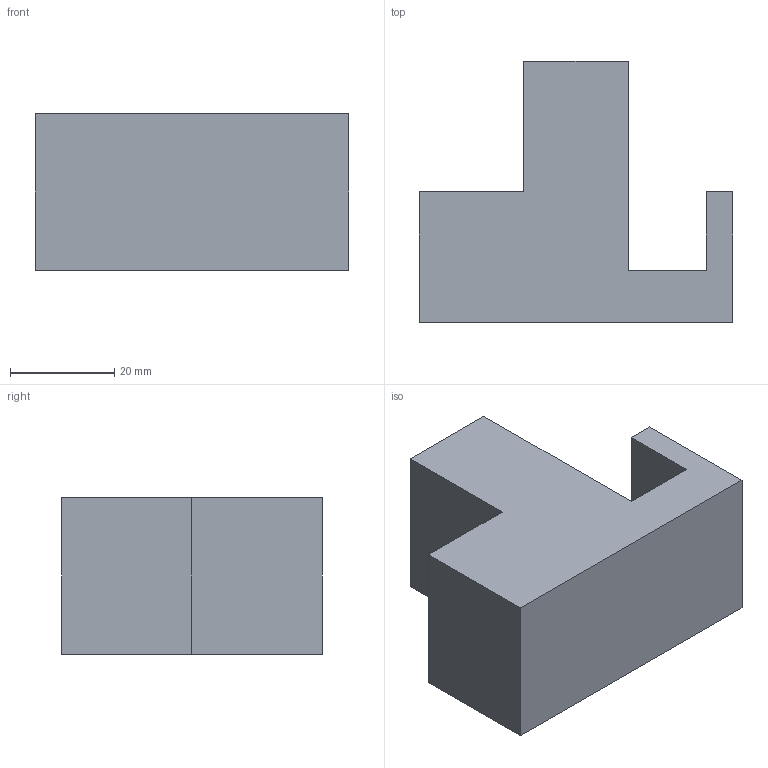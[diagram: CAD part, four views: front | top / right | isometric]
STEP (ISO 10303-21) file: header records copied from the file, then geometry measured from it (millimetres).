
FILE_DESCRIPTION(/* description */ (''),/* implementation_level */ '2;1');
FILE_NAME(/* name */ 'E:\OneDrive\Desktop\N5_GC_Orthographic\3D CAD Models\Task_2.stp',/* time_stamp */ '2020-06-09T12:48:50+01:00',/* author */ ('hunte'),/* organization */ (''),/* preprocessor_version */ 'ST-DEVELOPER v18.1',/* originating_system */ 'Autodesk Inventor 2020',/* authorisation */ '');
FILE_SCHEMA (('AUTOMOTIVE_DESIGN { 1 0 10303 214 3 1 1 }'));
Length unit declared in the file: millimetre
Products named in the file (1): Task_2
Bounding box: 60 x 50 x 30 mm (x, y, z)
Volume: 53250 mm3; surface area: 11050 mm2
Topology: 1 solids, 1 shells, 12 faces, 30 edges, 20 vertices
Faces by surface type: plane 12
Entity records: 395 total; most frequent: CARTESIAN_POINT 63, ORIENTED_EDGE 60, DIRECTION 56, LINE 30, VECTOR 30, EDGE_CURVE 30, VERTEX_POINT 20, AXIS2_PLACEMENT_3D 13
